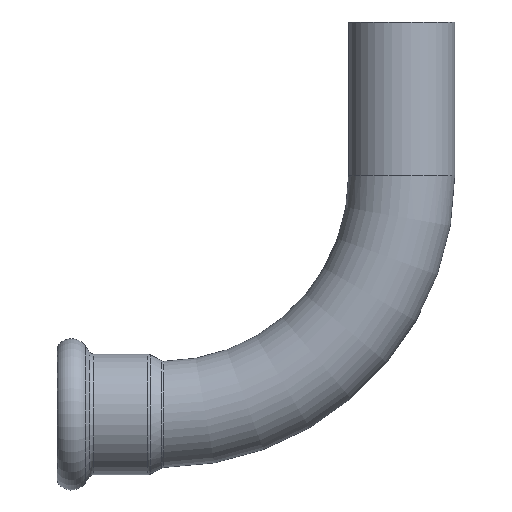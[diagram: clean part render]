
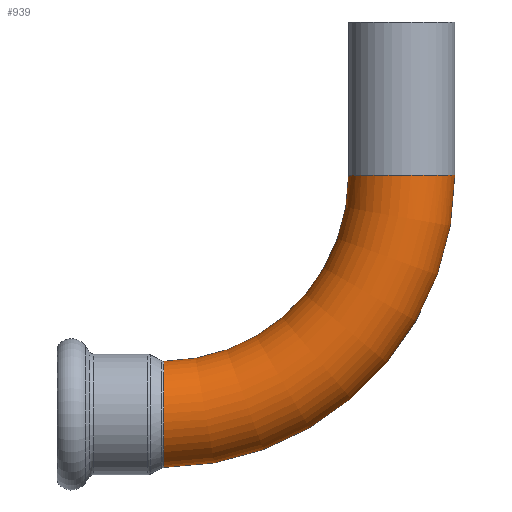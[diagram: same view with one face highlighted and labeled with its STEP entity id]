
A CAD part, top view. The second image highlights one B-rep face of the part: STEP entity #939.
In plain terms, the highlighted toroidal (fillet/blend) face has major radius 50 mm and minor radius 11.1 mm.
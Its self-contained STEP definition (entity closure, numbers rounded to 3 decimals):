
#86 = B_SPLINE_CURVE_WITH_KNOTS ( 'NONE', 3,
 ( #944, #1669, #1520, #1174, #781 ),
 .UNSPECIFIED., .F., .F.,
 ( 4, 1, 4 ),
 ( 0., 0.001, 0.001 ),
 .UNSPECIFIED. ) ;
#93 = CARTESIAN_POINT ( 'NONE',  ( 50., 0., 0. ) ) ;
#100 = CARTESIAN_POINT ( 'NONE',  ( 0.246, -61.032, 1.411 ) ) ;
#151 = ORIENTED_EDGE ( 'NONE', *, *, #883, .F. ) ;
#205 = CARTESIAN_POINT ( 'NONE',  ( 0.248, -53.309, 10.619 ) ) ;
#216 = CARTESIAN_POINT ( 'NONE',  ( 0.253, -41.708, 7.414 ) ) ;
#231 = CARTESIAN_POINT ( 'NONE',  ( 0.249, -49.829, 11.104 ) ) ;
#261 = DIRECTION ( 'NONE',  ( 0., 0., 1. ) ) ;
#389 = CARTESIAN_POINT ( 'NONE',  ( 0.254, -38.95, 1.058 ) ) ;
#398 = CARTESIAN_POINT ( 'NONE',  ( 0.254, -39.448, 3.465 ) ) ;
#415 = CARTESIAN_POINT ( 'NONE',  ( 0.251, -44.754, 9.789 ) ) ;
#424 = CARTESIAN_POINT ( 'NONE',  ( 0.254, -39.974, 4.777 ) ) ;
#431 = AXIS2_PLACEMENT_3D ( 'NONE', #2020, #888, #2401 ) ;
#466 = CIRCLE ( 'NONE', #767, 11.1 ) ;
#473 = CARTESIAN_POINT ( 'NONE',  ( 0.246, -60.552, 3.46 ) ) ;
#537 = EDGE_CURVE ( 'NONE', #1864, #2015, #86, .T. ) ;
#574 = CARTESIAN_POINT ( 'NONE',  ( 0.25, -49.126, 11.071 ) ) ;
#594 = AXIS2_PLACEMENT_3D ( 'NONE', #1946, #261, #1207 ) ;
#600 = CARTESIAN_POINT ( 'NONE',  ( 0.251, -46.042, 10.376 ) ) ;
#614 = CARTESIAN_POINT ( 'NONE',  ( 0.254, -39.563, 3.797 ) ) ;
#656 = FACE_OUTER_BOUND ( 'NONE', #1583, .T. ) ;
#679 = CARTESIAN_POINT ( 'NONE',  ( 61.1, 0., 0. ) ) ;
#717 = EDGE_CURVE ( 'NONE', #1480, #1066, #1300, .T. ) ;
#730 = ORIENTED_EDGE ( 'NONE', *, *, #1612, .T. ) ;
#767 = AXIS2_PLACEMENT_3D ( 'NONE', #93, #839, #802 ) ;
#779 = ORIENTED_EDGE ( 'NONE', *, *, #537, .T. ) ;
#781 = CARTESIAN_POINT ( 'NONE',  ( 0.254, -38.95, 1.058 ) ) ;
#784 = CARTESIAN_POINT ( 'NONE',  ( 0.248, -53.972, 10.388 ) ) ;
#802 = DIRECTION ( 'NONE',  ( -1., 0., 0. ) ) ;
#839 = DIRECTION ( 'NONE',  ( 0., 1., 0. ) ) ;
#883 = EDGE_CURVE ( 'NONE', #920, #1066, #466, .T. ) ;
#888 = DIRECTION ( 'NONE',  ( 0., 0., 1. ) ) ;
#920 = VERTEX_POINT ( 'NONE', #1172 ) ;
#934 = CARTESIAN_POINT ( 'NONE',  ( 0.252, -43.267, 8.853 ) ) ;
#939 = ADVANCED_FACE ( 'NONE', ( #656 ), #2276, .T. ) ;
#944 = CARTESIAN_POINT ( 'NONE',  ( 0.254, -38.899, 0. ) ) ;
#946 = CARTESIAN_POINT ( 'NONE',  ( 0.248, -54.93, 9.951 ) ) ;
#991 = ORIENTED_EDGE ( 'NONE', *, *, #717, .T. ) ;
#1013 = CARTESIAN_POINT ( 'NONE',  ( 0.247, -58.946, 6.58 ) ) ;
#1032 = CIRCLE ( 'NONE', #1739, 38.9 ) ;
#1045 = DIRECTION ( 'NONE',  ( 0., 0., 1. ) ) ;
#1066 = VERTEX_POINT ( 'NONE', #679 ) ;
#1082 = CARTESIAN_POINT ( 'NONE',  ( 0., 0., 0. ) ) ;
#1140 = CARTESIAN_POINT ( 'NONE',  ( 0.249, -50.53, 11.104 ) ) ;
#1172 = CARTESIAN_POINT ( 'NONE',  ( 38.9, 0., 0. ) ) ;
#1174 = CARTESIAN_POINT ( 'NONE',  ( 0.254, -38.933, 0.882 ) ) ;
#1176 = CARTESIAN_POINT ( 'NONE',  ( 0.248, -55.243, 9.79 ) ) ;
#1207 = DIRECTION ( 'NONE',  ( 1., 0., 0. ) ) ;
#1226 = CARTESIAN_POINT ( 'NONE',  ( 0.246, -60.751, 2.784 ) ) ;
#1300 = CIRCLE ( 'NONE', #594, 61.1 ) ;
#1311 = CARTESIAN_POINT ( 'NONE',  ( 0.247, -57.016, 8.629 ) ) ;
#1325 = CARTESIAN_POINT ( 'NONE',  ( 0.249, -51.927, 10.937 ) ) ;
#1335 = CARTESIAN_POINT ( 'NONE',  ( 0.254, -39.017, 1.766 ) ) ;
#1399 = CARTESIAN_POINT ( 'NONE',  ( 0.246, -60.041, 4.783 ) ) ;
#1480 = VERTEX_POINT ( 'NONE', #2417 ) ;
#1499 = CARTESIAN_POINT ( 'NONE',  ( 0.251, -45.715, 10.246 ) ) ;
#1511 = CARTESIAN_POINT ( 'NONE',  ( 0.249, -52.277, 10.87 ) ) ;
#1520 = CARTESIAN_POINT ( 'NONE',  ( 0.254, -38.908, 0.53 ) ) ;
#1525 = CARTESIAN_POINT ( 'NONE',  ( 0.253, -40.84, 6.309 ) ) ;
#1538 = CARTESIAN_POINT ( 'NONE',  ( 0.25, -47.036, 10.72 ) ) ;
#1551 = CARTESIAN_POINT ( 'NONE',  ( 0.247, -59.719, 5.406 ) ) ;
#1583 = EDGE_LOOP ( 'NONE', ( #730, #991, #151, #1861, #779 ) ) ;
#1584 = CARTESIAN_POINT ( 'NONE',  ( 0.246, -60.436, 3.797 ) ) ;
#1612 = EDGE_CURVE ( 'NONE', #2015, #1480, #1728, .T. ) ;
#1669 = CARTESIAN_POINT ( 'NONE',  ( 0.254, -38.899, 0.177 ) ) ;
#1672 = CARTESIAN_POINT ( 'NONE',  ( 0.247, -56.156, 9.243 ) ) ;
#1683 = CARTESIAN_POINT ( 'NONE',  ( 0.252, -43.838, 9.26 ) ) ;
#1696 = CARTESIAN_POINT ( 'NONE',  ( 0.253, -40.46, 5.719 ) ) ;
#1723 = CARTESIAN_POINT ( 'NONE',  ( 0.249, -51.229, 11.037 ) ) ;
#1728 = B_SPLINE_CURVE_WITH_KNOTS ( 'NONE', 3,
 ( #389, #1335, #2095, #398, #614, #1902, #424, #1696, #1525, #216, #1889, #934, #1683, #415, #2082, #1499, #600, #1538, #2254, #1917, #574, #231, #1140, #1723, #1325, #1511, #205, #784, #946, #1176, #1928, #1672, #1311, #2068, #1953, #2142, #1013, #1752, #1551, #1399, #1584, #473, #1226, #1762, #100, #1976, #2353 ),
 .UNSPECIFIED., .F., .F.,
 ( 4, 2, 2, 2, 2, 2, 2, 2, 2, 2, 2, 1, 2, 2, 2, 2, 2, 2, 2, 2, 2, 2, 2, 4 ),
 ( 0.001, 0.003, 0.004, 0.005, 0.007, 0.01, 0.012, 0.013, 0.014, 0.016, 0.017, 0.018, 0.019, 0.02, 0.022, 0.023, 0.025, 0.027, 0.028, 0.029, 0.031, 0.032, 0.033, 0.035 ),
 .UNSPECIFIED. ) ;
#1739 = AXIS2_PLACEMENT_3D ( 'NONE', #1082, #1045, #1791 ) ;
#1752 = CARTESIAN_POINT ( 'NONE',  ( 0.247, -59.15, 6.292 ) ) ;
#1762 = CARTESIAN_POINT ( 'NONE',  ( 0.246, -60.833, 2.443 ) ) ;
#1791 = DIRECTION ( 'NONE',  ( 1., 0., 0. ) ) ;
#1861 = ORIENTED_EDGE ( 'NONE', *, *, #2406, .F. ) ;
#1864 = VERTEX_POINT ( 'NONE', #2208 ) ;
#1889 = CARTESIAN_POINT ( 'NONE',  ( 0.253, -42.203, 7.932 ) ) ;
#1902 = CARTESIAN_POINT ( 'NONE',  ( 0.254, -39.825, 4.453 ) ) ;
#1917 = CARTESIAN_POINT ( 'NONE',  ( 0.25, -48.772, 11.038 ) ) ;
#1928 = CARTESIAN_POINT ( 'NONE',  ( 0.248, -55.856, 9.436 ) ) ;
#1946 = CARTESIAN_POINT ( 'NONE',  ( 0., 0., 0. ) ) ;
#1953 = CARTESIAN_POINT ( 'NONE',  ( 0.247, -58.275, 7.406 ) ) ;
#1976 = CARTESIAN_POINT ( 'NONE',  ( 0.246, -61.1, 0.711 ) ) ;
#2015 = VERTEX_POINT ( 'NONE', #2049 ) ;
#2020 = CARTESIAN_POINT ( 'NONE',  ( 0., 0., 0. ) ) ;
#2049 = CARTESIAN_POINT ( 'NONE',  ( 0.254, -38.95, 1.058 ) ) ;
#2068 = CARTESIAN_POINT ( 'NONE',  ( 0.247, -57.546, 8.17 ) ) ;
#2082 = CARTESIAN_POINT ( 'NONE',  ( 0.251, -45.071, 9.952 ) ) ;
#2095 = CARTESIAN_POINT ( 'NONE',  ( 0.254, -39.152, 2.456 ) ) ;
#2142 = CARTESIAN_POINT ( 'NONE',  ( 0.247, -58.508, 7.137 ) ) ;
#2208 = CARTESIAN_POINT ( 'NONE',  ( 0.254, -38.899, 0. ) ) ;
#2254 = CARTESIAN_POINT ( 'NONE',  ( 0.25, -47.719, 10.886 ) ) ;
#2276 = TOROIDAL_SURFACE ( 'NONE', #431, 50., 11.1 ) ;
#2353 = CARTESIAN_POINT ( 'NONE',  ( 0.246, -61.1, 0. ) ) ;
#2401 = DIRECTION ( 'NONE',  ( 1., 0., 0. ) ) ;
#2406 = EDGE_CURVE ( 'NONE', #1864, #920, #1032, .T. ) ;
#2417 = CARTESIAN_POINT ( 'NONE',  ( 0.246, -61.1, 0. ) ) ;
